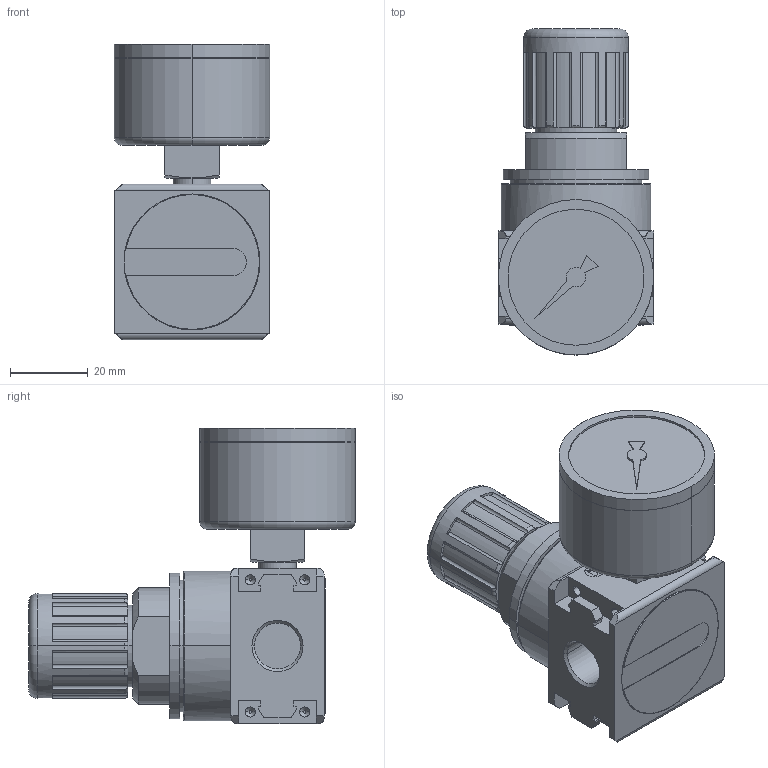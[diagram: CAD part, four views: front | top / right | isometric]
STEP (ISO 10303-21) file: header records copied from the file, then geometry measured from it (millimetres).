
FILE_DESCRIPTION((''),'2;1');
FILE_NAME('0821302734_ASM','2018-01-19T',('pug1hc'),(''),'CREO PARAMETRIC BY PTC INC, 2016260','CREO PARAMETRIC BY PTC INC, 2016260','');
FILE_SCHEMA(('CONFIG_CONTROL_DESIGN'));
Length unit declared in the file: millimetre
Products named in the file (3): 0821302734-A; 0821302734-B; 0821302734_ASM
Assembly tree (2 placements, depth 2):
  0821302734_ASM
    0821302734-A
    0821302734-B
Bounding box: 40 x 84 x 76 mm (x, y, z)
Volume: 106368.3 mm3; surface area: 21273.2 mm2
Topology: 2 solids, 2 shells, 289 faces, 756 edges, 506 vertices
Faces by surface type: plane 154, cylinder 102, cone 24, torus 9
Entity records: 9756 total; most frequent: CARTESIAN_POINT 2371, DIRECTION 1546, ORIENTED_EDGE 1512, EDGE_CURVE 756, AXIS2_PLACEMENT_3D 556, VERTEX_POINT 506, VECTOR 434, LINE 434
